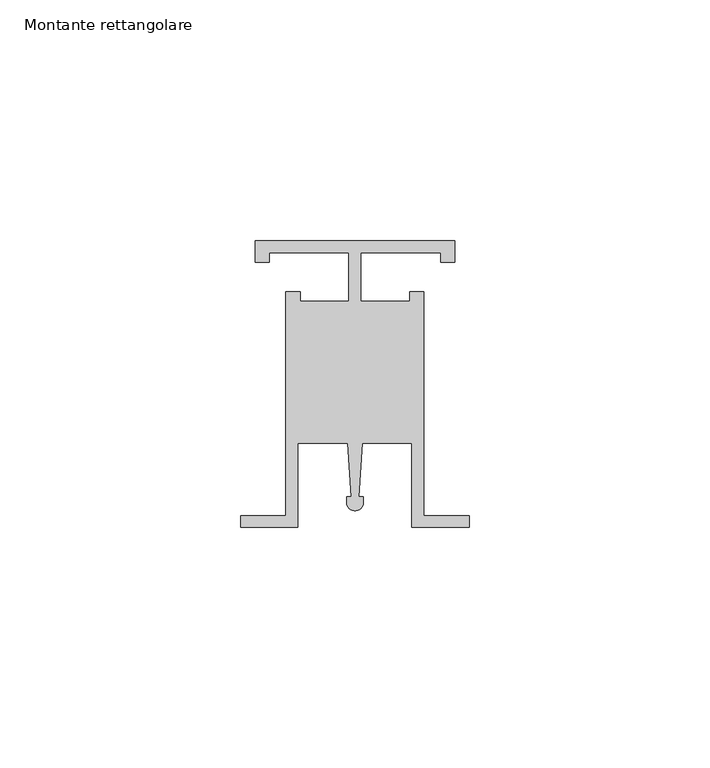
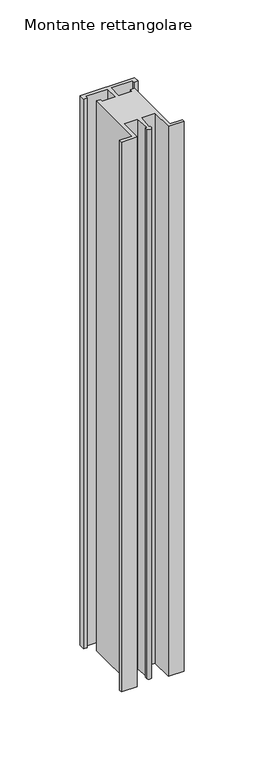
"""IFC4 building model written with IfcOpenShell, lengths in millimetres: member geometry, Montante rettangolare : Verde Profilo's Uprights."""

from ifc_helpers import new_model, si_unit, point, frame, frame_2d, origin, place, context, project, spatial, polyline, circle_curve, trimmed, segment, composite_curve, outline, extrude, source, transform, mapped, element, save


def montante_rettangolare_a1bb0029(model_context):
    return source(origin(), model_context, "Body", "SweptSolid", [
        extrude(outline(composite_curve([segment(polyline([(-20.7595941, 0.0), (20.7595941, 0.0), (20.7595941, -4.4643434), (17.7832659, -4.4643434), (17.7832659, -2.4801246), (1.24037, -2.4801246), (1.24037, -12.5992217), (11.3587923, -12.5992217), (11.3587923, -10.6150029), (14.3351204, -10.6150029), (14.3351204, -57.1992491), (23.7595941, -57.1992491), (23.7595941, -59.5229914), (11.8549958, -59.5229914), (11.8549958, -42.1200913), (1.4717512, -42.1200913), (0.7440374, -53.2310496), (1.7376604, -53.2310496), (1.7376604, -54.4070013)]), True, "CONTINUOUS"), segment(trimmed(circle_curve(frame_2d((0.0, -54.4070013)), 1.7376604), [point((1.7376604, -54.4070013))], [point((-1.7376604, -54.4070013))], False, "CARTESIAN"), True, "CONTINUOUS"), segment(polyline([(-1.7376604, -54.4070013), (-1.7376604, -53.2310496), (-0.7440374, -53.2310496), (-1.4717512, -42.1200913), (-11.8549958, -42.1200913), (-11.8549958, -59.5229914), (-23.7595941, -59.5229914), (-23.7595941, -57.1992491), (-14.3351204, -57.1992491), (-14.3351204, -10.6150029), (-11.3587923, -10.6150029), (-11.3587923, -12.5992217), (-1.24037, -12.5992217), (-1.24037, -2.4801246), (-17.7832659, -2.4801246), (-17.7832659, -4.4643434), (-20.7595941, -4.4643434), (-20.7595941, 0.0)]), True, "CONTINUOUS")], self_intersect=False)), frame((0.0, 0.0, -440.3770182), z_axis=(0.0, 0.0, 1.0), x_axis=(1.0, 0.0, 0.0)), (0.0, 0.0, 1.0), 440.3770182),
    ])


if __name__ == "__main__":
    model = new_model("IFC4")
    model_context = context("Model", 3, world=origin())
    ifc_project = project(units=[si_unit("LENGTHUNIT", "METRE", prefix="MILLI")], contexts=[model_context])
    site = spatial("IfcSite", under=ifc_project)
    building = spatial("IfcBuilding", under=site)
    placement = place(None, origin())
    montante_rettangolare_shape = montante_rettangolare_a1bb0029(model_context)
    element("IfcMember", 1, ObjectType="Montante rettangolare : Verde Profilo's Uprights", at=placement, inside=building, context=model_context, shape_type="MappedRepresentation", body=[
        mapped(montante_rettangolare_shape, transform((0.0, 0.0, 0.0), x_axis=(1.0, 0.0, 0.0), y_axis=(0.0, 1.0, 0.0), z_axis=(0.0, 0.0, 1.0))),
    ])
    save(model, "model.ifc")
